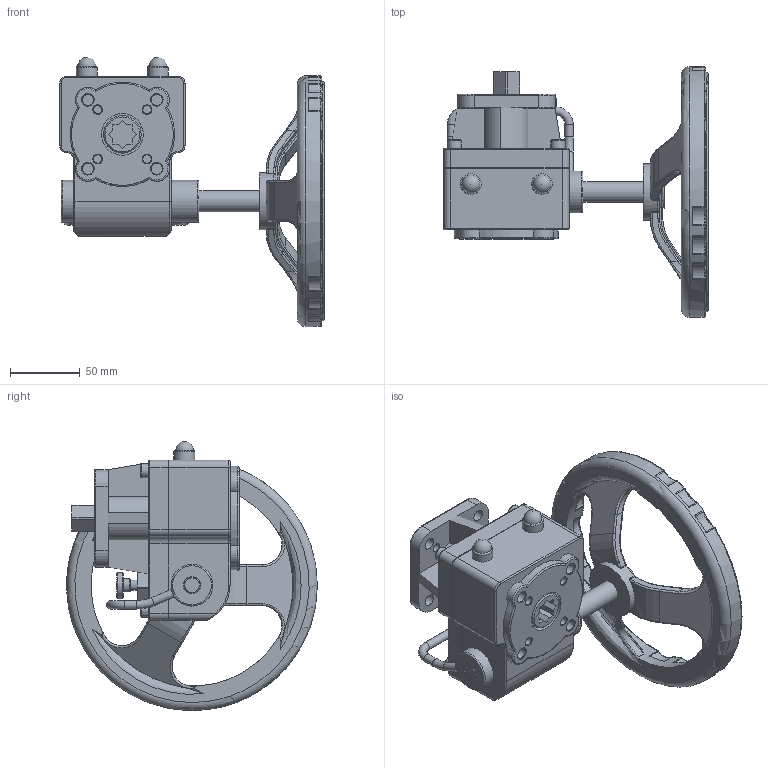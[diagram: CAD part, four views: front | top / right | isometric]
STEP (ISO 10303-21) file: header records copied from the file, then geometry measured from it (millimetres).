
FILE_DESCRIPTION(('STEP AP242'), '1');
FILE_NAME('MON1-250-T26-ISO 唒籦鍣 劌摠歑 DN.ru', '', ('UNSPECIFIED'), ('UNSPECIFIED'), 'C3D Converter', 'C3D Toolkit', '');
FILE_SCHEMA(('AP242_MANAGED_MODEL_BASED_3D_ENGINEERING_MIM_LF { 1 0 10303 442 1 1 4 }'));
Length unit declared in the file: millimetre
Products named in the file (1): MON1-250-T26-ISO
Bounding box: 190 x 179.98 x 193.23 mm (x, y, z)
Volume: 902947.7 mm3; surface area: 134223.6 mm2
Topology: 2 solids, 2 shells, 986 faces, 2509 edges, 1581 vertices
Faces by surface type: plane 413, cylinder 234, bspline 163, torus 118, sphere 38, cone 20
Full cylindrical faces by diameter (mm): 6 x9, 6.5 x4, 7.293 x1, 8 x4, 8.5 x4, 9.709 x1, 10 x4, 11.8 x1, 12 x1, 15 x3, 18.385 x1, 23.32 x1, 25 x1, 26 x1, 27 x1, 30 x3, 40.81 x1, 153.16 x1, 171.816 x1, 179.978 x1
Entity records: 59663 total; most frequent: CARTESIAN_POINT 29067, ORIENTED_EDGE 4826, DIRECTION 4322, EDGE_CURVE 2413, VERTEX_POINT 1572, AXIS2_PLACEMENT_3D 1534, LINE 1254, VECTOR 1254
